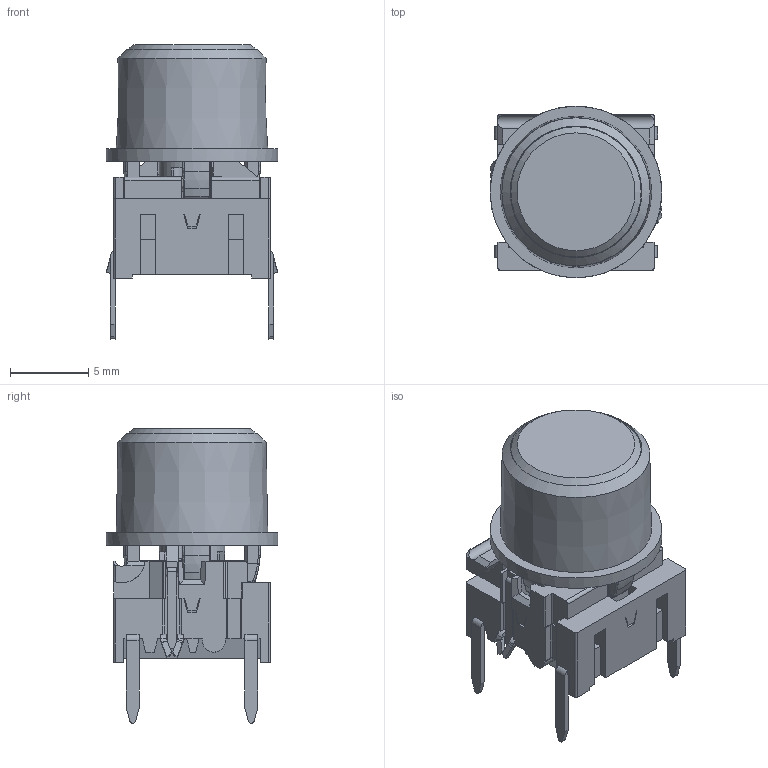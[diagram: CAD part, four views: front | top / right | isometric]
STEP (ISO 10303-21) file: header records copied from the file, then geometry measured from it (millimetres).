
FILE_DESCRIPTION(/* description */ (''),/* implementation_level */ '2;1');
FILE_NAME(/* name */ 'C:\Users\cgh.MEC\Desktop\Traceparts - 3D programserie\STEP filer\il-TH\5GTH9xxxxxxx+1FS.stp',/* time_stamp */ '2016-02-29T06:44:58+01:00',/* author */ ('cgh'),/* organization */ (''),/* preprocessor_version */ 'ST-DEVELOPER v15.2',/* originating_system */ 'Autodesk Inventor 2014',/* authorisation */ '');
FILE_SCHEMA (('AUTOMOTIVE_DESIGN { 1 0 10303 214 3 1 1 }'));
Length unit declared in the file: centimetre
Products named in the file (1): cgh
Bounding box: 11 x 11 x 18.86 mm (x, y, z)
Volume: 726.8 mm3; surface area: 1882.8 mm2
Topology: 1 solids, 1 shells, 1343 faces, 3799 edges, 2475 vertices
Faces by surface type: plane 842, cylinder 209, bspline 164, torus 65, cone 58, sphere 5
Full cylindrical faces by diameter (mm): 0.9 x1, 1 x3, 2.8 x1, 4.73 x1, 6.5 x1, 7.44 x1, 8.35 x1, 8.43 x1, 11 x1
Entity records: 47714 total; most frequent: CARTESIAN_POINT 12584, ORIENTED_EDGE 7494, DIRECTION 6354, EDGE_CURVE 3747, VERTEX_POINT 2460, LINE 2402, VECTOR 2402, AXIS2_PLACEMENT_3D 1976
